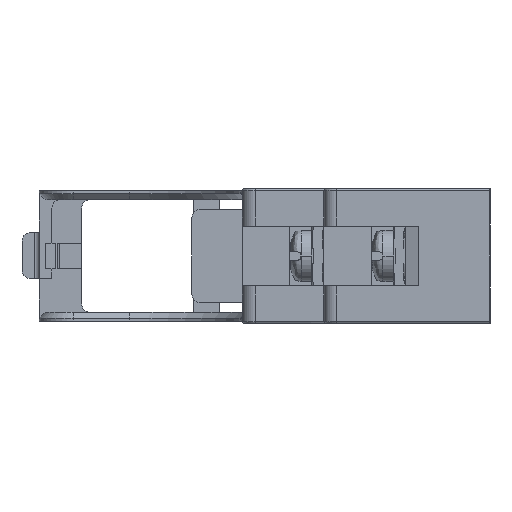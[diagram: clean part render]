
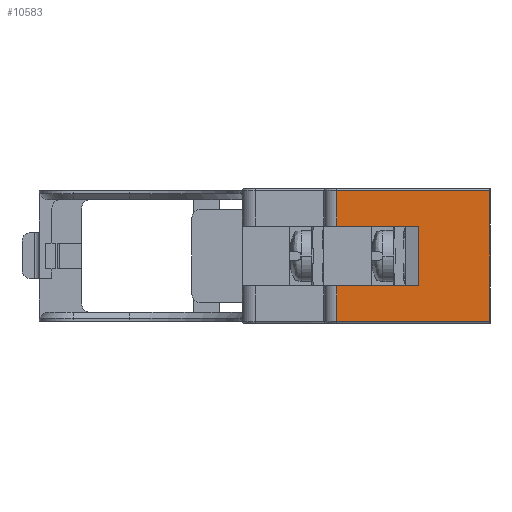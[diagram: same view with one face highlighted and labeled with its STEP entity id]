
A CAD part, left-side view. The second image highlights one B-rep face of the part: STEP entity #10583.
In plain terms, the highlighted planar face has unit normal (-1, 0, 0).
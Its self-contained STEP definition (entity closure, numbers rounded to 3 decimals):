
#1048 = VERTEX_POINT ( 'NONE', #32894 ) ;
#1657 = ORIENTED_EDGE ( 'NONE', *, *, #2246, .T. ) ;
#2246 = EDGE_CURVE ( 'NONE', #26377, #1048, #12339, .T. ) ;
#2592 = EDGE_CURVE ( 'NONE', #5241, #1048, #16876, .T. ) ;
#3775 = CARTESIAN_POINT ( 'NONE',  ( -34.841, -3.051, 3.5 ) ) ;
#5241 = VERTEX_POINT ( 'NONE', #3775 ) ;
#6239 = CARTESIAN_POINT ( 'NONE',  ( -34.841, 6.499, -3.5 ) ) ;
#6287 = PLANE ( 'NONE',  #11991 ) ;
#6964 = DIRECTION ( 'NONE',  ( 0., -1., 0. ) ) ;
#7396 = DIRECTION ( 'NONE',  ( 0., 0., -1. ) ) ;
#8303 = DIRECTION ( 'NONE',  ( 0., 1., 0. ) ) ;
#8897 = CARTESIAN_POINT ( 'NONE',  ( -34.841, 6.499, -8. ) ) ;
#8981 = VERTEX_POINT ( 'NONE', #21474 ) ;
#10135 = VERTEX_POINT ( 'NONE', #42999 ) ;
#10370 = EDGE_CURVE ( 'NONE', #5241, #8981, #45113, .T. ) ;
#10583 = ADVANCED_FACE ( 'NONE', ( #26124 ), #6287, .F. ) ;
#10781 = LINE ( 'NONE', #11792, #38875 ) ;
#11503 = LINE ( 'NONE', #8897, #39614 ) ;
#11792 = CARTESIAN_POINT ( 'NONE',  ( -34.841, -11.451, 8. ) ) ;
#11991 = AXIS2_PLACEMENT_3D ( 'NONE', #35635, #13659, #39326 ) ;
#12339 = LINE ( 'NONE', #29089, #30688 ) ;
#12896 = EDGE_CURVE ( 'NONE', #34862, #26377, #46074, .T. ) ;
#13004 = CARTESIAN_POINT ( 'NONE',  ( -34.841, -3.051, 3.5 ) ) ;
#13659 = DIRECTION ( 'NONE',  ( 1., 0., 0. ) ) ;
#14388 = VECTOR ( 'NONE', #6964, 1000. ) ;
#14527 = VERTEX_POINT ( 'NONE', #43892 ) ;
#14760 = CARTESIAN_POINT ( 'NONE',  ( -34.841, -3.051, -3.075 ) ) ;
#16044 = ORIENTED_EDGE ( 'NONE', *, *, #10370, .T. ) ;
#16110 = ORIENTED_EDGE ( 'NONE', *, *, #21654, .T. ) ;
#16876 = LINE ( 'NONE', #13004, #26637 ) ;
#17542 = ORIENTED_EDGE ( 'NONE', *, *, #2592, .F. ) ;
#18100 = ORIENTED_EDGE ( 'NONE', *, *, #21331, .T. ) ;
#20929 = EDGE_CURVE ( 'NONE', #22319, #8981, #40253, .T. ) ;
#21331 = EDGE_CURVE ( 'NONE', #14527, #10135, #25256, .T. ) ;
#21474 = CARTESIAN_POINT ( 'NONE',  ( -34.841, -3.051, -3.5 ) ) ;
#21654 = EDGE_CURVE ( 'NONE', #22319, #14527, #11503, .T. ) ;
#22319 = VERTEX_POINT ( 'NONE', #6239 ) ;
#22608 = ORIENTED_EDGE ( 'NONE', *, *, #20929, .F. ) ;
#25256 = LINE ( 'NONE', #32618, #14388 ) ;
#26124 = FACE_OUTER_BOUND ( 'NONE', #35286, .T. ) ;
#26377 = VERTEX_POINT ( 'NONE', #30762 ) ;
#26497 = ORIENTED_EDGE ( 'NONE', *, *, #34384, .F. ) ;
#26557 = VECTOR ( 'NONE', #8303, 1000. ) ;
#26637 = VECTOR ( 'NONE', #42203, 1000. ) ;
#27283 = DIRECTION ( 'NONE',  ( 0., 0., -1. ) ) ;
#29089 = CARTESIAN_POINT ( 'NONE',  ( -34.841, 6.499, 3.075 ) ) ;
#29321 = VECTOR ( 'NONE', #37175, 1000. ) ;
#29781 = CARTESIAN_POINT ( 'NONE',  ( -34.841, 6.499, -3.5 ) ) ;
#30216 = CARTESIAN_POINT ( 'NONE',  ( -34.841, 6.499, 7.65 ) ) ;
#30688 = VECTOR ( 'NONE', #36491, 1000. ) ;
#30762 = CARTESIAN_POINT ( 'NONE',  ( -34.841, 6.499, 7.65 ) ) ;
#32618 = CARTESIAN_POINT ( 'NONE',  ( -34.841, -11.451, -7.65 ) ) ;
#32894 = CARTESIAN_POINT ( 'NONE',  ( -34.841, 6.499, 3.5 ) ) ;
#33758 = DIRECTION ( 'NONE',  ( 0., 0., -1. ) ) ;
#34384 = EDGE_CURVE ( 'NONE', #34862, #10135, #10781, .T. ) ;
#34862 = VERTEX_POINT ( 'NONE', #40299 ) ;
#34931 = ORIENTED_EDGE ( 'NONE', *, *, #12896, .T. ) ;
#35286 = EDGE_LOOP ( 'NONE', ( #16110, #18100, #26497, #34931, #1657, #17542, #16044, #22608 ) ) ;
#35349 = VECTOR ( 'NONE', #7396, 1000. ) ;
#35635 = CARTESIAN_POINT ( 'NONE',  ( -34.841, -11.451, 8. ) ) ;
#36491 = DIRECTION ( 'NONE',  ( 0., 0., -1. ) ) ;
#37175 = DIRECTION ( 'NONE',  ( 0., -1., 0. ) ) ;
#38875 = VECTOR ( 'NONE', #33758, 1000. ) ;
#39326 = DIRECTION ( 'NONE',  ( 0., 1., 0. ) ) ;
#39614 = VECTOR ( 'NONE', #27283, 1000. ) ;
#40253 = LINE ( 'NONE', #29781, #29321 ) ;
#40299 = CARTESIAN_POINT ( 'NONE',  ( -34.841, -11.451, 7.65 ) ) ;
#42203 = DIRECTION ( 'NONE',  ( 0., 1., 0. ) ) ;
#42999 = CARTESIAN_POINT ( 'NONE',  ( -34.841, -11.451, -7.65 ) ) ;
#43892 = CARTESIAN_POINT ( 'NONE',  ( -34.841, 6.499, -7.65 ) ) ;
#45113 = LINE ( 'NONE', #14760, #35349 ) ;
#46074 = LINE ( 'NONE', #30216, #26557 ) ;
